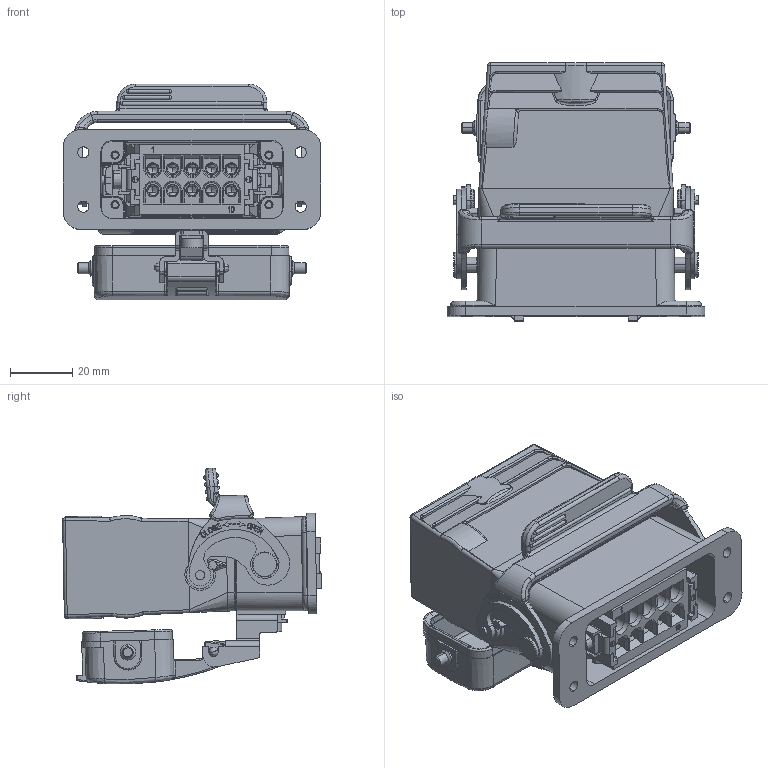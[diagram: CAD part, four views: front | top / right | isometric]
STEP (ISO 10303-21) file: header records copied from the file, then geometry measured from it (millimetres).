
FILE_DESCRIPTION (( 'STEP AP203' ), '1' );
FILE_NAME ('09010006120 H10A HA、10针、开孔袋盖底座、顶出M20套件.STEP', '2024-04-18T09:01:15', ( 'L' ), ( '' ), 'SwSTEP 2.0', 'SolidWorks 2019', '' );
FILE_SCHEMA (( 'CONFIG_CONTROL_DESIGN' ));
Products named in the file (5): 09010006120 H10A  HA、10针、开孔袋盖底座、顶出M20套件; H10A-TG-M20.step; HA-010-F.stp; HA-010-M.stp; H10A-AD.step
Assembly tree (4 placements, depth 2):
  09010006120 H10A  HA、10针、开孔袋盖底座、顶出M20套件
    H10A-AD.step
    HA-010-M.stp
    HA-010-F.stp
    H10A-TG-M20.step
Bounding box: 83 x 83.3 x 69.52 mm (x, y, z)
Volume: 113523.4 mm3; surface area: 79535.4 mm2
Topology: 6 solids, 11 shells, 3647 faces, 9704 edges, 6191 vertices
Faces by surface type: plane 1794, cylinder 974, bspline 463, cone 311, torus 81, sphere 24
Full cylindrical faces by diameter (mm): 0.4 x2
Entity records: 138034 total; most frequent: CARTESIAN_POINT 51340, ORIENTED_EDGE 19120, DIRECTION 16179, EDGE_CURVE 9560, VERTEX_POINT 6164, LINE 5527, VECTOR 5527, AXIS2_PLACEMENT_3D 5326
